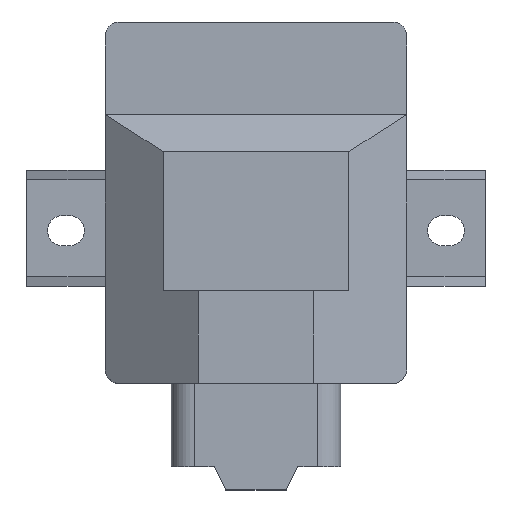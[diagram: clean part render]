
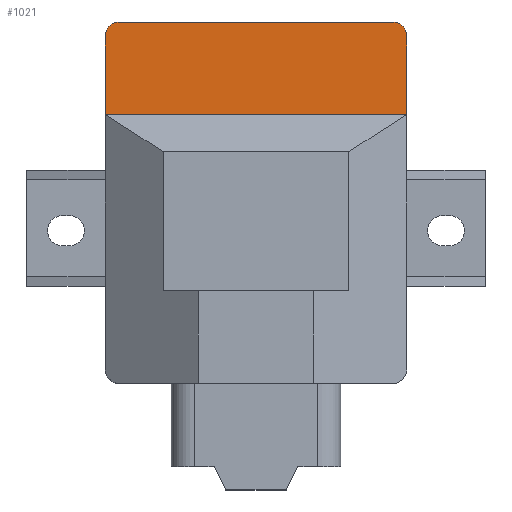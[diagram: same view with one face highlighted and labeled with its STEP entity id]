
A CAD part, top view. The second image highlights one B-rep face of the part: STEP entity #1021.
In plain terms, the highlighted free-form (B-spline) face has degree [3, 3] with [4, 4] control points.
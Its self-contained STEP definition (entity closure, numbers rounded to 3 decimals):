
#29=CARTESIAN_POINT('',(29.5,75.,11.));
#30=DIRECTION('',(0.,0.,1.));
#31=DIRECTION('',(1.,0.,0.));
#32=AXIS2_PLACEMENT_3D('',#29,#30,#31);
#34=DIRECTION('',(-1.,0.,0.));
#35=VECTOR('',#34,65.);
#36=CARTESIAN_POINT('',(32.5,58.,11.));
#37=LINE('',#36,#35);
#38=DIRECTION('',(0.,-1.,0.));
#39=VECTOR('',#38,17.);
#40=CARTESIAN_POINT('',(-32.5,75.,11.));
#41=LINE('',#40,#39);
#42=CARTESIAN_POINT('',(-29.5,75.,11.));
#43=DIRECTION('',(0.,0.,1.));
#44=DIRECTION('',(0.,1.,0.));
#45=AXIS2_PLACEMENT_3D('',#42,#43,#44);
#51=DIRECTION('',(1.,0.,0.));
#52=VECTOR('',#51,59.);
#53=CARTESIAN_POINT('',(-29.5,78.,11.));
#54=LINE('',#53,#52);
#197=DIRECTION('',(0.,-1.,0.));
#198=VECTOR('',#197,17.);
#199=CARTESIAN_POINT('',(32.5,75.,11.));
#200=LINE('',#199,#198);
#673=CARTESIAN_POINT('',(-32.5,58.,11.));
#674=VERTEX_POINT('',#673);
#675=CARTESIAN_POINT('',(-32.5,75.,11.));
#676=VERTEX_POINT('',#675);
#705=CARTESIAN_POINT('',(32.5,58.,11.));
#706=VERTEX_POINT('',#705);
#708=CARTESIAN_POINT('',(32.5,75.,11.));
#709=CARTESIAN_POINT('',(29.5,78.,11.));
#710=VERTEX_POINT('',#708);
#711=VERTEX_POINT('',#709);
#712=CARTESIAN_POINT('',(-29.5,78.,11.));
#713=VERTEX_POINT('',#712);
#992=CARTESIAN_POINT('',(-33.8,78.4,11.));
#993=CARTESIAN_POINT('',(-11.267,78.4,11.));
#994=CARTESIAN_POINT('',(11.267,78.4,11.));
#995=CARTESIAN_POINT('',(33.8,78.4,11.));
#996=CARTESIAN_POINT('',(-33.8,71.467,11.));
#997=CARTESIAN_POINT('',(-11.267,71.467,11.));
#998=CARTESIAN_POINT('',(11.267,71.467,11.));
#999=CARTESIAN_POINT('',(33.8,71.467,11.));
#1000=CARTESIAN_POINT('',(-33.8,64.533,11.));
#1001=CARTESIAN_POINT('',(-11.267,64.533,11.));
#1002=CARTESIAN_POINT('',(11.267,64.533,11.));
#1003=CARTESIAN_POINT('',(33.8,64.533,11.));
#1004=CARTESIAN_POINT('',(-33.8,57.6,11.));
#1005=CARTESIAN_POINT('',(-11.267,57.6,11.));
#1006=CARTESIAN_POINT('',(11.267,57.6,11.));
#1007=CARTESIAN_POINT('',(33.8,57.6,11.));
#1008=B_SPLINE_SURFACE_WITH_KNOTS('',3,3,((#992,#993,#994,#995),(#996,#997,#998,
#999),(#1000,#1001,#1002,#1003),(#1004,#1005,#1006,#1007)),.UNSPECIFIED.,.F.,
.F.,.F.,(4,4),(4,4),(-0.4,20.4),(-1.3,66.3),.UNSPECIFIED.);
#1010=ORIENTED_EDGE('',*,*,#1009,.F.);
#1012=ORIENTED_EDGE('',*,*,#1011,.T.);
#1013=ORIENTED_EDGE('',*,*,#982,.T.);
#1014=ORIENTED_EDGE('',*,*,#909,.F.);
#1016=ORIENTED_EDGE('',*,*,#1015,.F.);
#1018=ORIENTED_EDGE('',*,*,#1017,.T.);
#1019=EDGE_LOOP('',(#1010,#1012,#1013,#1014,#1016,#1018));
#1020=FACE_OUTER_BOUND('',#1019,.F.);
#1021=ADVANCED_FACE('',(#1020),#1008,.T.);
#33=CIRCLE('',#32,3.);
#46=CIRCLE('',#45,3.);
#909=EDGE_CURVE('',#676,#674,#41,.T.);
#982=EDGE_CURVE('',#706,#674,#37,.T.);
#1009=EDGE_CURVE('',#710,#711,#33,.T.);
#1011=EDGE_CURVE('',#710,#706,#200,.T.);
#1015=EDGE_CURVE('',#713,#676,#46,.T.);
#1017=EDGE_CURVE('',#713,#711,#54,.T.);
